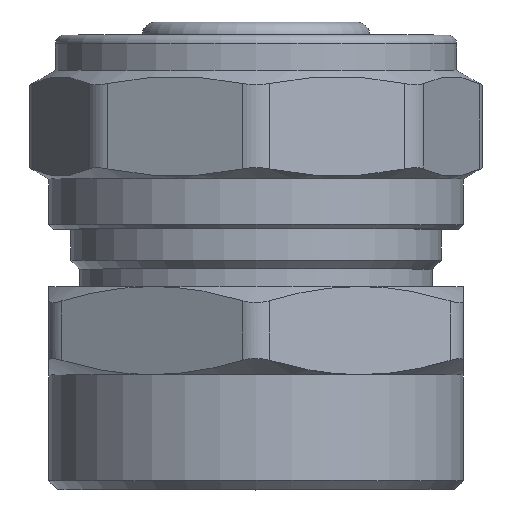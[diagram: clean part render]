
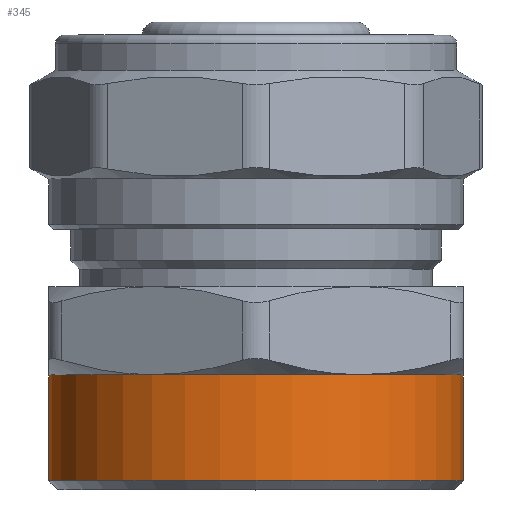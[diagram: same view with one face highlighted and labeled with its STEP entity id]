
A CAD part, top view. The second image highlights one B-rep face of the part: STEP entity #345.
In plain terms, the highlighted cylindrical face has radius 23.5 mm (diameter 47 mm), a full revolution.
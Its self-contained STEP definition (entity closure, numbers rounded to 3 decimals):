
#345=ADVANCED_FACE('',(#2389,#2391),#2393,.T.);
#2389=FACE_BOUND('',#2390,.T.);
#2390=EDGE_LOOP('',(#4674,#4675,#4676,#4677,#4678,#4679));
#2391=FACE_OUTER_BOUND('',#2392,.T.);
#2392=EDGE_LOOP('',(#4680));
#2393=CYLINDRICAL_SURFACE('',#2394,23.5);
#2394=AXIS2_PLACEMENT_3D('',#2395,#2396,#2397);
#2395=CARTESIAN_POINT('',(0.,0.,0.));
#2396=DIRECTION('',(0.,1.,0.));
#2397=DIRECTION('',(-1.,0.,0.));
#4674=ORIENTED_EDGE('',*,*,#5582,.T.);
#4675=ORIENTED_EDGE('',*,*,#5581,.T.);
#4676=ORIENTED_EDGE('',*,*,#5579,.T.);
#4677=ORIENTED_EDGE('',*,*,#5578,.T.);
#4678=ORIENTED_EDGE('',*,*,#5580,.T.);
#4679=ORIENTED_EDGE('',*,*,#5583,.T.);
#4680=ORIENTED_EDGE('',*,*,#5594,.T.);
#5578=EDGE_CURVE('',#6313,#6318,#6947,.F.);
#5579=EDGE_CURVE('',#6324,#6313,#6948,.F.);
#5580=EDGE_CURVE('',#6318,#6350,#6949,.F.);
#5581=EDGE_CURVE('',#6332,#6324,#6950,.F.);
#5582=EDGE_CURVE('',#6342,#6332,#6951,.F.);
#5583=EDGE_CURVE('',#6350,#6342,#6952,.F.);
#5594=EDGE_CURVE('',#6973,#6973,#6974,.T.);
#6313=VERTEX_POINT('',#10031);
#6318=VERTEX_POINT('',#10101);
#6324=VERTEX_POINT('',#10206);
#6332=VERTEX_POINT('',#10315);
#6342=VERTEX_POINT('',#10428);
#6350=VERTEX_POINT('',#10546);
#6947=CIRCLE('',#12645,23.5);
#6948=CIRCLE('',#12649,23.5);
#6949=CIRCLE('',#12653,23.5);
#6950=CIRCLE('',#12657,23.5);
#6951=CIRCLE('',#12661,23.5);
#6952=CIRCLE('',#12665,23.5);
#6973=VERTEX_POINT('',#12711);
#6974=CIRCLE('',#12712,23.5);
#10031=CARTESIAN_POINT('',(-23.5,13.,0.));
#10101=CARTESIAN_POINT('',(-11.75,13.,-20.352));
#10206=CARTESIAN_POINT('',(-11.75,13.,20.352));
#10315=CARTESIAN_POINT('',(11.75,13.,20.352));
#10428=CARTESIAN_POINT('',(23.5,13.,0.));
#10546=CARTESIAN_POINT('',(11.75,13.,-20.352));
#12645=AXIS2_PLACEMENT_3D('',#12646,#12647,#12648);
#12646=CARTESIAN_POINT('',(0.,13.,0.));
#12647=DIRECTION('',(0.,1.,0.));
#12648=DIRECTION('',(-0.5,0.,-0.866));
#12649=AXIS2_PLACEMENT_3D('',#12650,#12651,#12652);
#12650=CARTESIAN_POINT('',(0.,13.,0.));
#12651=DIRECTION('',(0.,1.,0.));
#12652=DIRECTION('',(-1.,0.,0.));
#12653=AXIS2_PLACEMENT_3D('',#12654,#12655,#12656);
#12654=CARTESIAN_POINT('',(0.,13.,0.));
#12655=DIRECTION('',(0.,1.,0.));
#12656=DIRECTION('',(0.5,0.,-0.866));
#12657=AXIS2_PLACEMENT_3D('',#12658,#12659,#12660);
#12658=CARTESIAN_POINT('',(0.,13.,0.));
#12659=DIRECTION('',(0.,1.,0.));
#12660=DIRECTION('',(-0.5,0.,0.866));
#12661=AXIS2_PLACEMENT_3D('',#12662,#12663,#12664);
#12662=CARTESIAN_POINT('',(0.,13.,0.));
#12663=DIRECTION('',(0.,1.,0.));
#12664=DIRECTION('',(0.5,0.,0.866));
#12665=AXIS2_PLACEMENT_3D('',#12666,#12667,#12668);
#12666=CARTESIAN_POINT('',(0.,13.,0.));
#12667=DIRECTION('',(0.,1.,0.));
#12668=DIRECTION('',(1.,0.,0.));
#12711=CARTESIAN_POINT('',(-23.5,1.,0.));
#12712=AXIS2_PLACEMENT_3D('',#12713,#12714,#12715);
#12713=CARTESIAN_POINT('',(0.,1.,0.));
#12714=DIRECTION('',(0.,1.,0.));
#12715=DIRECTION('',(-1.,0.,0.));
